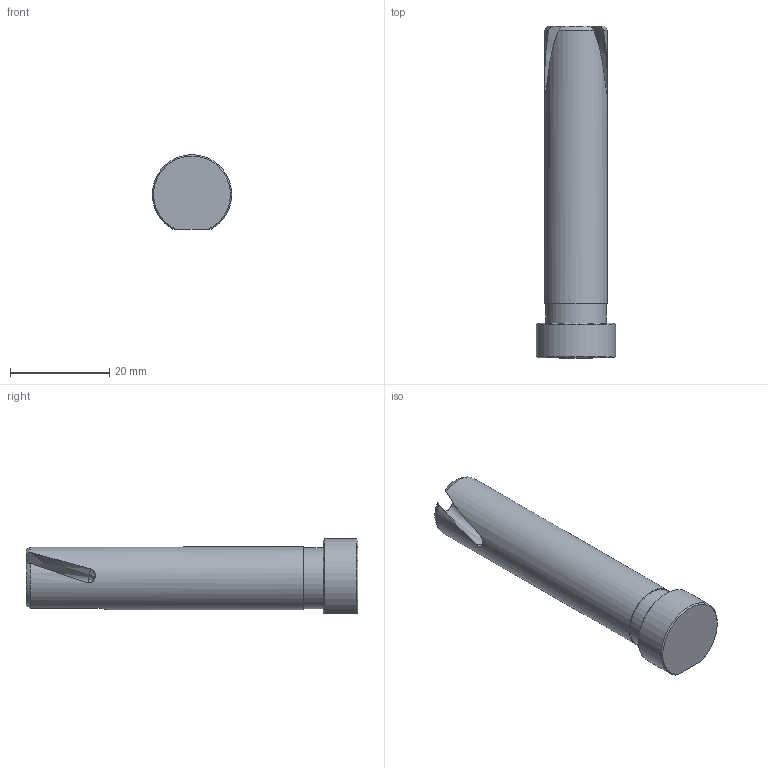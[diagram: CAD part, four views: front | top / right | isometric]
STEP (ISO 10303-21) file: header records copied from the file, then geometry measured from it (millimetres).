
FILE_DESCRIPTION (( 'STEP AP214' ), '1' );
FILE_NAME ('P1-2.60.2-90.STEP', '2023-03-14T08:37:08', ( '' ), ( '' ), 'SwSTEP 2.0', 'SolidWorks 2022', '' );
FILE_SCHEMA (( 'AUTOMOTIVE_DESIGN' ));
Length unit declared in the file: millimetre
Products named in the file (1): P1-2.60.2-90
Bounding box: 15.98 x 67 x 14.97 mm (x, y, z)
Volume: 8317 mm3; surface area: 3447.3 mm2
Topology: 1 solids, 1 shells, 28 faces, 80 edges, 55 vertices
Faces by surface type: plane 9, bspline 8, cylinder 5, cone 5, sphere 1
Full cylindrical faces by diameter (mm): 12.3 x1, 12.7 x1
Entity records: 2887 total; most frequent: CARTESIAN_POINT 2233, ORIENTED_EDGE 150, DIRECTION 94, EDGE_CURVE 75, VERTEX_POINT 53, B_SPLINE_CURVE_WITH_KNOTS 43, AXIS2_PLACEMENT_3D 41, EDGE_LOOP 32
